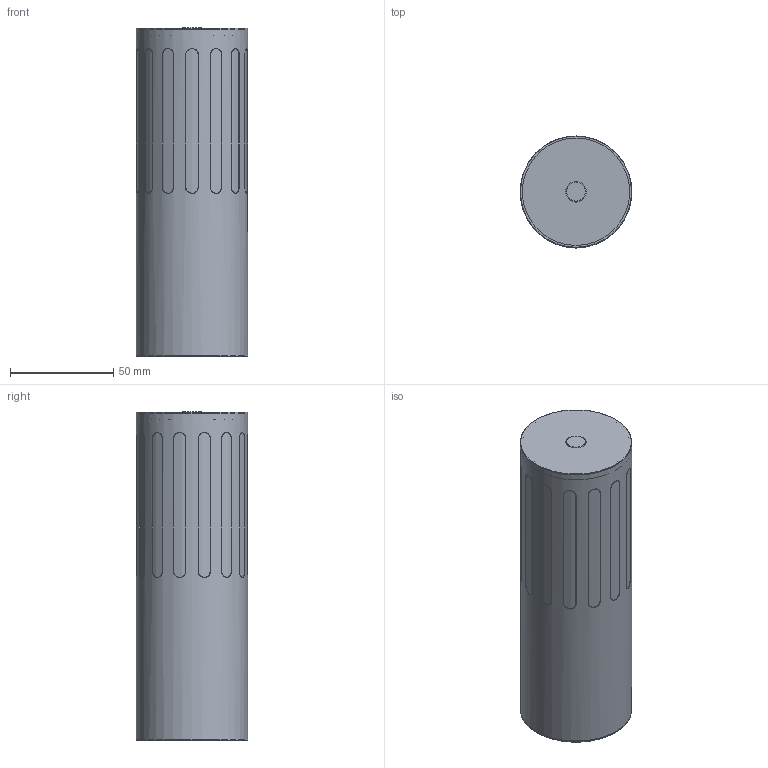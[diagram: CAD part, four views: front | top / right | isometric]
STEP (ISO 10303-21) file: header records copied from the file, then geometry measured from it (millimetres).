
FILE_DESCRIPTION(/* description */ (''),/* implementation_level */ '2;1');
FILE_NAME(/* name */ 'BloomsburyTableBatterySteel.step',/* time_stamp */ '2024-09-10T14:25:48+02:00',/* author */ (''),/* organization */ (''),/* preprocessor_version */ 'ST-DEVELOPER v20',/* originating_system */ 'Autodesk Translation Framework v13.14.0.145',/* authorisation */ '');
FILE_SCHEMA (('AUTOMOTIVE_DESIGN { 1 0 10303 214 3 1 1 }'));
Length unit declared in the file: millimetre
Products named in the file (1): Bloomsbury Table 2
Bounding box: 54 x 54 x 159.2 mm (x, y, z)
Volume: 371576.6 mm3; surface area: 83483.8 mm2
Topology: 6 solids, 6 shells, 208 faces, 466 edges, 271 vertices
Faces by surface type: bspline 84, cylinder 70, plane 47, torus 6, cone 1
Full cylindrical faces by diameter (mm): 9.5 x1, 10 x1, 11.16 x1, 52 x1, 53.5 x1, 54 x3
Entity records: 9975 total; most frequent: CARTESIAN_POINT 5629, ORIENTED_EDGE 932, DIRECTION 757, EDGE_CURVE 466, AXIS2_PLACEMENT_3D 278, VERTEX_POINT 271, EDGE_LOOP 243, FACE_OUTER_BOUND 208
